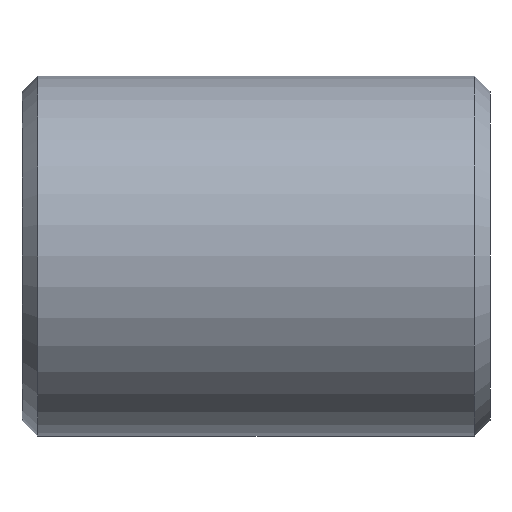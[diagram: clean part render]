
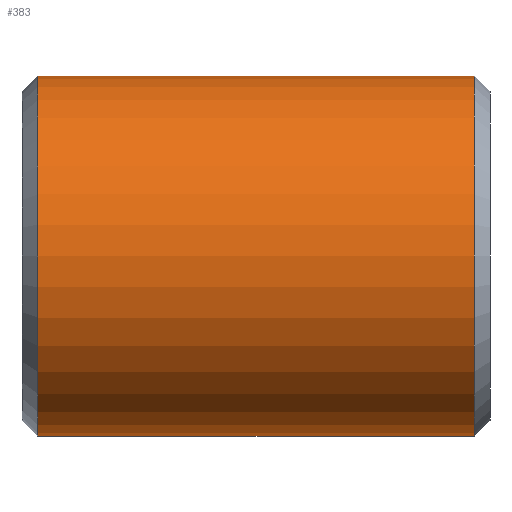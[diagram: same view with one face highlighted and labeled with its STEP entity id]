
A CAD part, front view. The second image highlights one B-rep face of the part: STEP entity #383.
In plain terms, the highlighted cylindrical face has radius 80 mm (diameter 160 mm), a partial arc.
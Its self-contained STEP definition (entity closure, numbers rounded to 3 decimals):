
#8 = CIRCLE ( 'NONE', #344, 80. ) ;
#23 = CARTESIAN_POINT ( 'NONE',  ( 201., 0., 0. ) ) ;
#24 = LINE ( 'NONE', #25, #46 ) ;
#25 = CARTESIAN_POINT ( 'NONE',  ( 0., 0., -80. ) ) ;
#36 = EDGE_CURVE ( 'NONE', #247, #214, #24, .T. ) ;
#40 = VERTEX_POINT ( 'NONE', #223 ) ;
#46 = VECTOR ( 'NONE', #216, 1000. ) ;
#58 = CIRCLE ( 'NONE', #76, 80. ) ;
#61 = CARTESIAN_POINT ( 'NONE',  ( 7., 0., 80. ) ) ;
#71 = DIRECTION ( 'NONE',  ( -1., 0., 0. ) ) ;
#73 = ORIENTED_EDGE ( 'NONE', *, *, #219, .T. ) ;
#76 = AXIS2_PLACEMENT_3D ( 'NONE', #23, #102, #448 ) ;
#88 = CYLINDRICAL_SURFACE ( 'NONE', #154, 80. ) ;
#102 = DIRECTION ( 'NONE',  ( -1., 0., 0. ) ) ;
#126 = LINE ( 'NONE', #360, #266 ) ;
#140 = ORIENTED_EDGE ( 'NONE', *, *, #397, .T. ) ;
#141 = VERTEX_POINT ( 'NONE', #61 ) ;
#154 = AXIS2_PLACEMENT_3D ( 'NONE', #283, #432, #184 ) ;
#184 = DIRECTION ( 'NONE',  ( 0., 0., 1. ) ) ;
#214 = VERTEX_POINT ( 'NONE', #369 ) ;
#216 = DIRECTION ( 'NONE',  ( -1., 0., 0. ) ) ;
#219 = EDGE_CURVE ( 'NONE', #141, #214, #8, .T. ) ;
#223 = CARTESIAN_POINT ( 'NONE',  ( 201., 0., 80. ) ) ;
#247 = VERTEX_POINT ( 'NONE', #398 ) ;
#264 = FACE_OUTER_BOUND ( 'NONE', #421, .T. ) ;
#266 = VECTOR ( 'NONE', #71, 1000. ) ;
#283 = CARTESIAN_POINT ( 'NONE',  ( 0., 0., 0. ) ) ;
#286 = ORIENTED_EDGE ( 'NONE', *, *, #405, .T. ) ;
#344 = AXIS2_PLACEMENT_3D ( 'NONE', #434, #414, #401 ) ;
#360 = CARTESIAN_POINT ( 'NONE',  ( 0., 0., 80. ) ) ;
#369 = CARTESIAN_POINT ( 'NONE',  ( 7., 0., -80. ) ) ;
#383 = ADVANCED_FACE ( 'NONE', ( #264 ), #88, .T. ) ;
#397 = EDGE_CURVE ( 'NONE', #40, #141, #126, .T. ) ;
#398 = CARTESIAN_POINT ( 'NONE',  ( 201., 0., -80. ) ) ;
#401 = DIRECTION ( 'NONE',  ( 0., 0., -1. ) ) ;
#405 = EDGE_CURVE ( 'NONE', #247, #40, #58, .T. ) ;
#414 = DIRECTION ( 'NONE',  ( 1., 0., 0. ) ) ;
#421 = EDGE_LOOP ( 'NONE', ( #441, #286, #140, #73 ) ) ;
#432 = DIRECTION ( 'NONE',  ( -1., 0., 0. ) ) ;
#434 = CARTESIAN_POINT ( 'NONE',  ( 7., 0., 0. ) ) ;
#441 = ORIENTED_EDGE ( 'NONE', *, *, #36, .F. ) ;
#448 = DIRECTION ( 'NONE',  ( 0., 0., 1. ) ) ;
